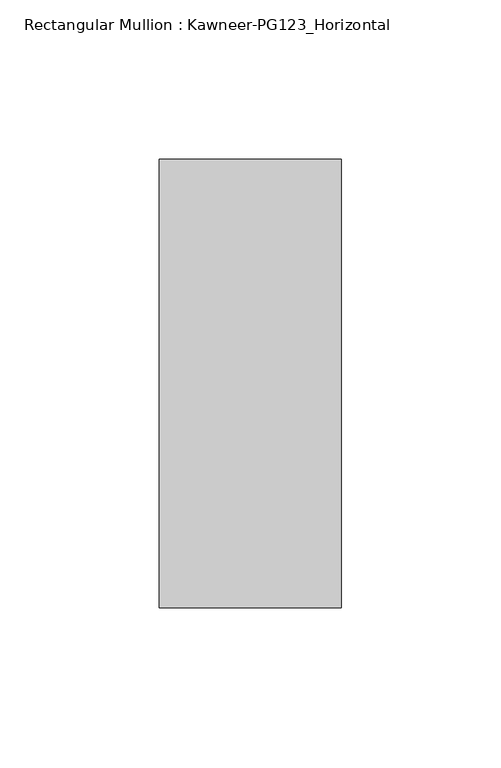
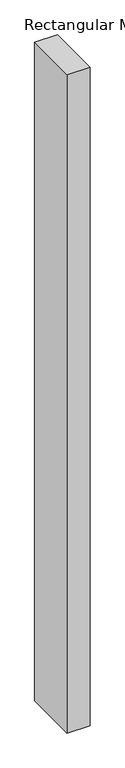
"""IFC4 building model written with IfcOpenShell, lengths in millimetres: member geometry, Rectangular Mullion : Kawneer-PG123_Horizontal."""

from ifc_helpers import new_model, si_unit, frame, origin, place, context, project, spatial, polyline, outline, extrude, source, transform, mapped, element, save


def rectangular_mullion_kawneer_pg123_horizontal_c38472fa(model_context):
    return source(origin(), model_context, "Body", "SweptSolid", [
        extrude(outline(polyline([(-28.575, 69.2403998), (28.575, 69.2403998), (28.575, -71.4267552), (-28.575, -71.4267552), (-28.575, 69.2403998)])), frame((0.0, 0.0, -1744.275), z_axis=(0.0, 0.0, 1.0), x_axis=(1.0, 0.0, 0.0)), (0.0, 0.0, 1.0), 1744.275),
    ])


if __name__ == "__main__":
    model = new_model("IFC4")
    model_context = context("Model", 3, world=origin())
    ifc_project = project(units=[si_unit("LENGTHUNIT", "METRE", prefix="MILLI")], contexts=[model_context])
    site = spatial("IfcSite", under=ifc_project)
    building = spatial("IfcBuilding", under=site)
    placement = place(None, origin())
    rectangular_mullion_kawneer_pg123_horizontal_shape = rectangular_mullion_kawneer_pg123_horizontal_c38472fa(model_context)
    element("IfcMember", 1, ObjectType="Rectangular Mullion : Kawneer-PG123_Horizontal", at=placement, inside=building, context=model_context, shape_type="MappedRepresentation", body=[
        mapped(rectangular_mullion_kawneer_pg123_horizontal_shape, transform((0.0, 0.0, 0.0), x_axis=(1.0, 0.0, 0.0), y_axis=(0.0, 1.0, 0.0), z_axis=(0.0, 0.0, 1.0))),
    ])
    save(model, "model.ifc")
